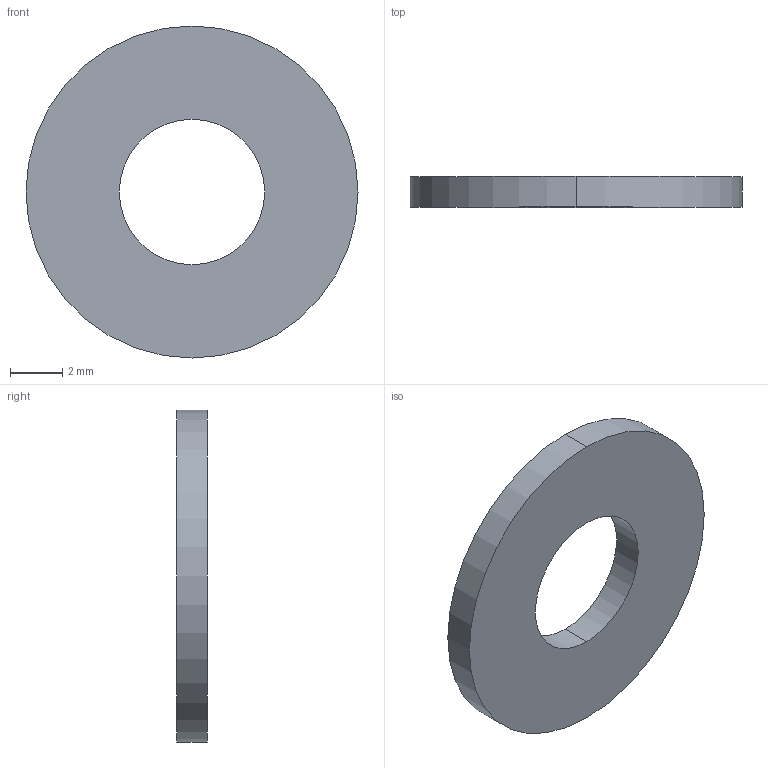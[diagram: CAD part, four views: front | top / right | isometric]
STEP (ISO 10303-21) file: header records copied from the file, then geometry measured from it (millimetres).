
FILE_DESCRIPTION (( 'STEP AP214' ), '1' );
FILE_NAME ('am-1026 #10 Flat Washer.STEP', '2023-07-26T15:34:54', ( '' ), ( '' ), 'SwSTEP 2.0', 'SolidWorks 2022', '' );
FILE_SCHEMA (( 'AUTOMOTIVE_DESIGN' ));
Length unit declared in the file: inch
Products named in the file (1): am-1026 #10 Flat Washer
Bounding box: 12.7 x 1.17 x 12.7 mm (x, y, z)
Volume: 119.6 mm3; surface area: 271.8 mm2
Topology: 1 solids, 1 shells, 6 faces, 12 edges, 8 vertices
Faces by surface type: cylinder 4, plane 2
Entity records: 208 total; most frequent: DIRECTION 34, CARTESIAN_POINT 27, ORIENTED_EDGE 24, AXIS2_PLACEMENT_3D 15, EDGE_CURVE 12, CIRCLE 8, VERTEX_POINT 8, EDGE_LOOP 8
